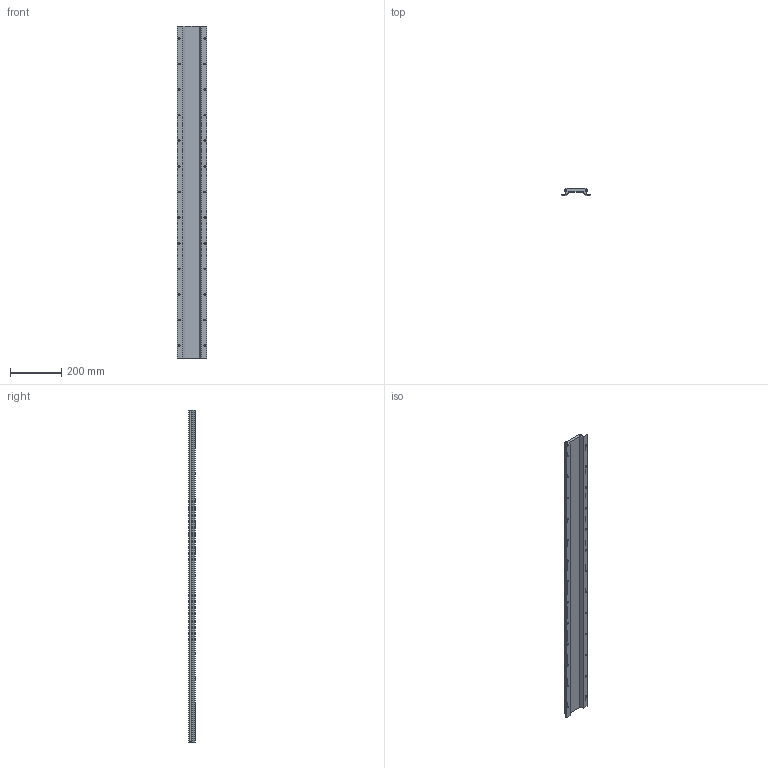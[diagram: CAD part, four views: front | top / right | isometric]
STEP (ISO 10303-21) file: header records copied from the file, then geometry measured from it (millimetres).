
FILE_DESCRIPTION (( 'STEP AP203' ), '1' );
FILE_NAME ('MLF 3_-_MLF 3 1296 mm lang.step', '2005-06-03T09:57:37', ( ' ' ), ( ' ' ), 'SwSTEP 2.0', 'SolidWorks 2004231', '' );
FILE_SCHEMA (( 'CONFIG_CONTROL_DESIGN' ));
Length unit declared in the file: millimetre
Products named in the file (1): MLF 3_-_MLF 3  1296 mm lang
Bounding box: 115 x 25.5 x 1296 mm (x, y, z)
Volume: 1682430.3 mm3; surface area: 457917.9 mm2
Topology: 1 solids, 1 shells, 184 faces, 636 edges, 420 vertices
Faces by surface type: plane 112, cylinder 72
Entity records: 7097 total; most frequent: CARTESIAN_POINT 1553, ORIENTED_EDGE 1272, DIRECTION 1098, EDGE_CURVE 636, VERTEX_POINT 420, AXIS2_PLACEMENT_3D 381, LINE 336, VECTOR 336
